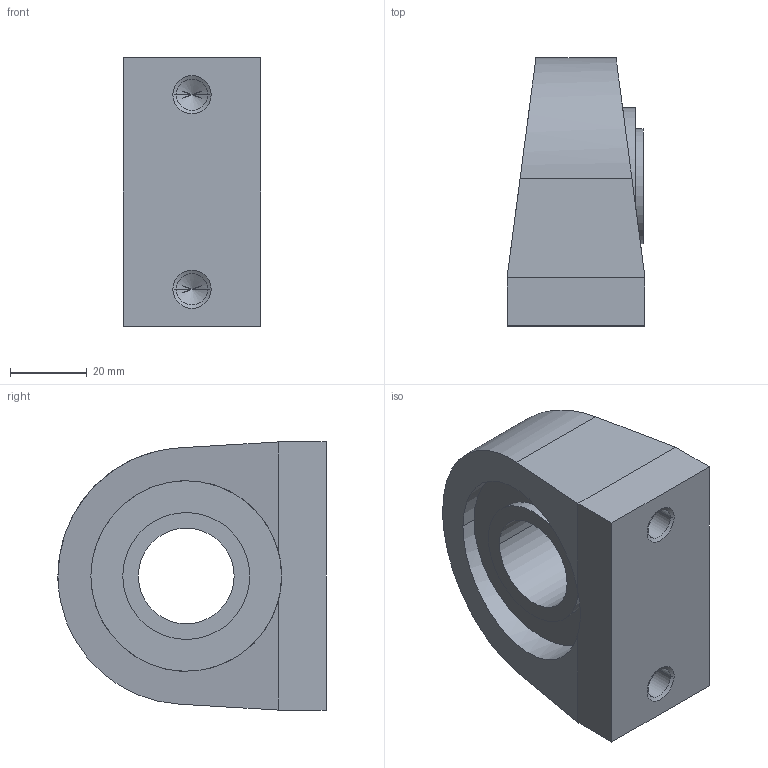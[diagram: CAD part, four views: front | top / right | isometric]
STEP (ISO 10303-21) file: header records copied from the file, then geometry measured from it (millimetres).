
FILE_DESCRIPTION(('SolidDesigner STEP Export'),'2;1');
FILE_NAME('Stehlager_RSHEA_25.stp','2002-07-16T10:26:29',(''),(''),'SolidDesigner STEP processor Version: 9.0 (March 2001)for AP214(CD)(Solid Model)','CoCreate SolidDesigner: 11.00 12-Dec-2001(C) CoCreate Software GmbH','');
FILE_SCHEMA(('AUTOMOTIVE_DESIGN_CC2 {1 2 10303 214 -1 1 5 1}'));
Length unit declared in the file: millimetre
Products named in the file (1): Stehlager_RSHEA_25
Bounding box: 36 x 70 x 70 mm (x, y, z)
Volume: 101637 mm3; surface area: 22072.3 mm2
Topology: 1 solids, 1 shells, 43 faces, 99 edges, 59 vertices
Faces by surface type: cylinder 19, plane 14, cone 10
Entity records: 1089 total; most frequent: ORIENTED_EDGE 190, CARTESIAN_POINT 159, DIRECTION 154, EDGE_CURVE 95, VERTEX_POINT 59, AXIS2_PLACEMENT_3D 54, EDGE_LOOP 50, VECTOR 46
